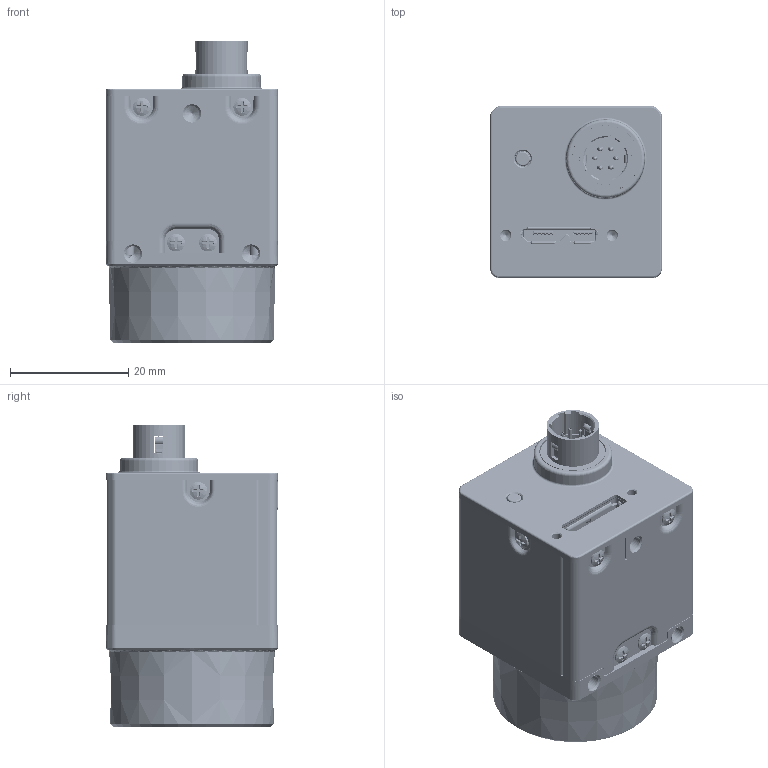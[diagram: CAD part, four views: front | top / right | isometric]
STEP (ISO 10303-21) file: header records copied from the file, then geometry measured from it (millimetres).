
FILE_DESCRIPTION((''),'2;1');
FILE_NAME('00-CUU_ALL_ASM','2022-05-05T13:59:35',('zhangfeixiang8'),(''),'CREO PARAMETRIC BY PTC INC, 2020044','CREO PARAMETRIC BY PTC INC, 2020044','');
FILE_SCHEMA(('CONFIG_CONTROL_DESIGN','SHAPE_APPEARANCE_LAYERS_GROUPS'));
Products named in the file (171): DE-13-000592; 102200787; D-01-35-26-0007_6; DE-17-000301; DE-11-025111; SC_T1M2X3B_2; SC_M2_ASM; ST-S3X4_1-M2X4-F2X3_3-B; SCREW_S3X4_ASM; ST-S3X3_6-M2X3_6-F2X2_8-B; SCREW_S3X36_ASM; DF-17-000274; DA-17-003125; THERMAL_PAD_ASM; MV-21252REV10-0215-1621-2022021; 1002712; 101303452; 100101979; 100100927; 101105925; 101105928; 101105686; 100800234; 100100452; 1001; 100100473; 100201217; 100200029; 100300261; 100100462; 100201236; 1000024; 100200529; 100200386; 100200427; 100200050; MV-21252REV10-0215-1621-2022021_ASM; MV-20296REV10-0310-1422-2022031; 101302471; 100700233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
Assembly tree (1138 placements, depth 6):
  00-CUU_ALL_ASM
    FRONT_COMPONENT_ASM
      DE-13-000592
      102200787
      D-01-35-26-0007_6
      DE-17-000301
      DE-11-025111
      SC_M2_ASM
        SC_T1M2X3B_2  x11
      SCREW_S3X4_ASM
        ST-S3X4_1-M2X4-F2X3_3-B  x4
      SCREW_S3X36_ASM  x2
        ST-S3X3_6-M2X3_6-F2X2_8-B
      THERMAL_PAD_ASM
        DF-17-000274  x2
        DA-17-003125
      PCB_ALL_ASM
        MV-21252REV10-0215-1621-2022021_ASM
          MV-21252REV10-0215-1621-2022021
          1002712
          101303452
          100101979  x3
          100100927  x9
          101105925
          101105928  x2
          101105686
          100800234
          100100452  x6
          1001  x9
          100100473  x3
          100201217  x10
          100200029  x6
          100300261
          100100462
          100201236  x4
          1000024  x4
          100200529  x9
          100200386  x22
          100200427  x2
          100200050  x4
        MV-20296REV10-0310-1422-2022031_ASM
          MV-20296REV10-0310-1422-2022031
          101302471
          100700233
          101106455
          101102265
          100300347  x4
          101106419  x4
          101107317
          911100118
          101303451
          100800207  x2
          100300241  x12
          100100294  x2
          100100638  x2
          100200596  x20
          100100287
          100100296  x2
          100201288  x5
          100100944
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Bounding box: 29 x 29 x 50.88 mm (x, y, z)
Volume: 19897.4 mm3; surface area: 44913.1 mm2
Topology: 1135 solids, 1221 shells, 32184 faces, 83771 edges, 54418 vertices
Faces by surface type: plane 23420, cylinder 6707, bspline 804, cone 633, torus 336, sphere 229, extrusion 55
Entity records: 614601 total; most frequent: CARTESIAN_POINT 123442, ORIENTED_EDGE 76205, DIRECTION 75860, EDGE_CURVE 38820, PRESENTATION_STYLE_ASSIGNMENT 34201, STYLED_ITEM 33712, CURVE_STYLE 30347, VECTOR 27628
